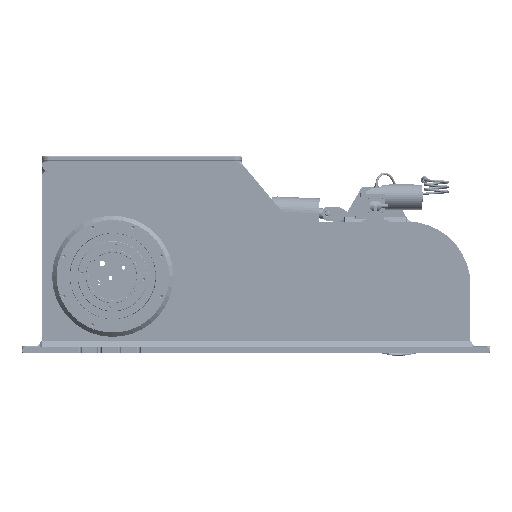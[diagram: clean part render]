
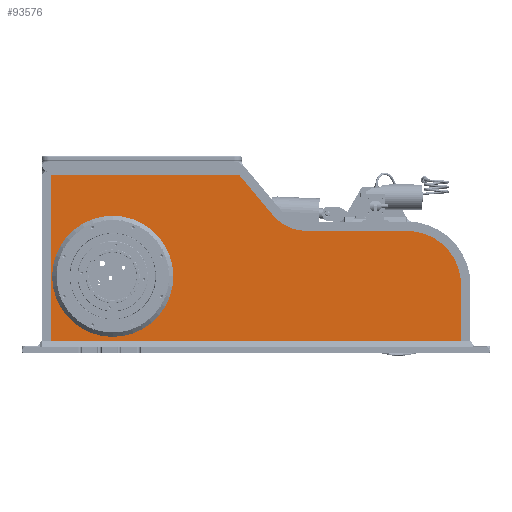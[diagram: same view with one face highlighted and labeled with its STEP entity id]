
A CAD part, left-side view. The second image highlights one B-rep face of the part: STEP entity #93576.
In plain terms, the highlighted planar face has unit normal (-1, 0, 0).
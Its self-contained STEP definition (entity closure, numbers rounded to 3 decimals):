
#3957=FACE_BOUND('',#30005,.T.);
#5201=PLANE('',#99759);
#8471=LINE('',#138631,#16185);
#8472=LINE('',#138633,#16186);
#8473=LINE('',#138637,#16187);
#8474=LINE('',#138641,#16188);
#8475=LINE('',#138643,#16189);
#8476=LINE('',#138644,#16190);
#16185=VECTOR('',#112658,10.);
#16186=VECTOR('',#112659,10.);
#16187=VECTOR('',#112662,10.);
#16188=VECTOR('',#112665,10.);
#16189=VECTOR('',#112666,10.);
#16190=VECTOR('',#112667,10.);
#24921=FACE_OUTER_BOUND('',#30004,.T.);
#30004=EDGE_LOOP('',(#68665,#68666,#68667,#68668,#68669,#68670,#68671,#68672));
#30005=EDGE_LOOP('',(#68673,#68674));
#35797=CIRCLE('',#99760,138.082);
#35798=CIRCLE('',#99761,111.918);
#35799=CIRCLE('',#99762,155.);
#35800=CIRCLE('',#99763,155.);
#41075=VERTEX_POINT('',#138629);
#41076=VERTEX_POINT('',#138630);
#41077=VERTEX_POINT('',#138632);
#41078=VERTEX_POINT('',#138634);
#41079=VERTEX_POINT('',#138636);
#41080=VERTEX_POINT('',#138638);
#41081=VERTEX_POINT('',#138640);
#41082=VERTEX_POINT('',#138642);
#41083=VERTEX_POINT('',#138645);
#41084=VERTEX_POINT('',#138646);
#52357=EDGE_CURVE('',#41075,#41076,#8471,.T.);
#52358=EDGE_CURVE('',#41075,#41077,#8472,.T.);
#52359=EDGE_CURVE('',#41077,#41078,#35797,.T.);
#52360=EDGE_CURVE('',#41078,#41079,#8473,.T.);
#52361=EDGE_CURVE('',#41079,#41080,#35798,.T.);
#52362=EDGE_CURVE('',#41080,#41081,#8474,.T.);
#52363=EDGE_CURVE('',#41081,#41082,#8475,.T.);
#52364=EDGE_CURVE('',#41076,#41082,#8476,.T.);
#52365=EDGE_CURVE('',#41083,#41084,#35799,.T.);
#52366=EDGE_CURVE('',#41084,#41083,#35800,.T.);
#68665=ORIENTED_EDGE('',*,*,#52357,.F.);
#68666=ORIENTED_EDGE('',*,*,#52358,.T.);
#68667=ORIENTED_EDGE('',*,*,#52359,.T.);
#68668=ORIENTED_EDGE('',*,*,#52360,.T.);
#68669=ORIENTED_EDGE('',*,*,#52361,.T.);
#68670=ORIENTED_EDGE('',*,*,#52362,.T.);
#68671=ORIENTED_EDGE('',*,*,#52363,.T.);
#68672=ORIENTED_EDGE('',*,*,#52364,.F.);
#68673=ORIENTED_EDGE('',*,*,#52365,.F.);
#68674=ORIENTED_EDGE('',*,*,#52366,.F.);
#93576=ADVANCED_FACE('',(#24921,#3957),#5201,.F.);
#99759=AXIS2_PLACEMENT_3D('',#138628,#112656,#112657);
#99760=AXIS2_PLACEMENT_3D('',#138635,#112660,#112661);
#99761=AXIS2_PLACEMENT_3D('',#138639,#112663,#112664);
#99762=AXIS2_PLACEMENT_3D('',#138647,#112668,#112669);
#99763=AXIS2_PLACEMENT_3D('',#138648,#112670,#112671);
#112656=DIRECTION('center_axis',(1.,0.,0.));
#112657=DIRECTION('ref_axis',(0.,0.,
-1.));
#112658=DIRECTION('',(0.,1.,0.));
#112659=DIRECTION('',(0.,0.,1.));
#112660=DIRECTION('center_axis',(-1.,0.,0.));
#112661=DIRECTION('ref_axis',(0.,-0.707,
0.707));
#112662=DIRECTION('',(0.,1.,0.));
#112663=DIRECTION('center_axis',(1.,0.,0.));
#112664=DIRECTION('ref_axis',(0.,0.423,-0.906));
#112665=DIRECTION('',(0.,0.643,0.766));
#112666=DIRECTION('',(0.,1.,0.));
#112667=DIRECTION('',(0.,0.,1.));
#112668=DIRECTION('center_axis',(-1.,0.,0.));
#112669=DIRECTION('ref_axis',(0.,0.,
-1.));
#112670=DIRECTION('center_axis',(-1.,0.,0.));
#112671=DIRECTION('ref_axis',(0.,0.,
-1.));
#138628=CARTESIAN_POINT('Origin',(-242.,-366.5,236.));
#138629=CARTESIAN_POINT('',(-242.,-891.082,31.203));
#138630=CARTESIAN_POINT('',(-242.,158.082,31.203));
#138631=CARTESIAN_POINT('',(-242.,-643.035,31.203));
#138632=CARTESIAN_POINT('',(-242.,-891.082,175.));
#138633=CARTESIAN_POINT('',(-242.,-891.082,-295.055));
#138634=CARTESIAN_POINT('',(-242.,-753.,313.082));
#138635=CARTESIAN_POINT('Origin',(-242.,-753.,175.));
#138636=CARTESIAN_POINT('',(-242.,-495.783,313.082));
#138637=CARTESIAN_POINT('',(-242.,-191.852,313.082));
#138638=CARTESIAN_POINT('',(-242.,-410.049,353.061));
#138639=CARTESIAN_POINT('Origin',(-242.,-495.783,425.));
#138640=CARTESIAN_POINT('',(-242.,-324.443,455.082));
#138641=CARTESIAN_POINT('',(-242.,-526.168,214.676));
#138642=CARTESIAN_POINT('',(-242.,158.082,455.082));
#138643=CARTESIAN_POINT('',(-242.,-86.125,455.082));
#138644=CARTESIAN_POINT('',(-242.,158.082,120.5));
#138645=CARTESIAN_POINT('',(-242.,0.,352.));
#138646=CARTESIAN_POINT('',(-242.,0.,42.));
#138647=CARTESIAN_POINT('Origin',(-242.,0.,
197.));
#138648=CARTESIAN_POINT('Origin',(-242.,0.,
197.));
